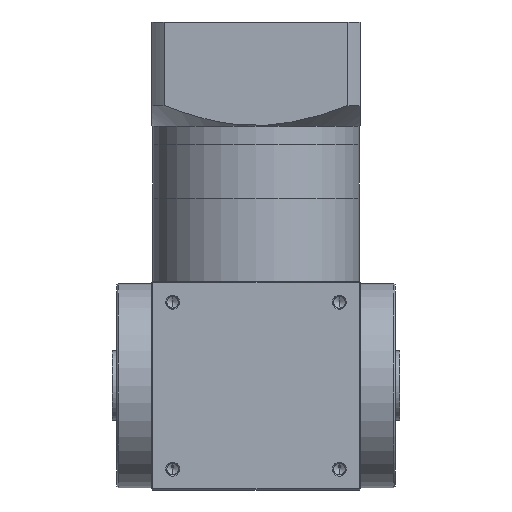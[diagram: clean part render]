
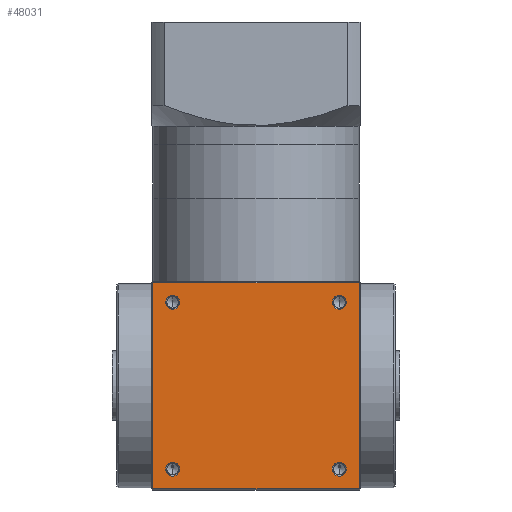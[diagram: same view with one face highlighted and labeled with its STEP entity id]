
A CAD part, front view. The second image highlights one B-rep face of the part: STEP entity #48031.
In plain terms, the highlighted planar face has unit normal (0, -1, 0).
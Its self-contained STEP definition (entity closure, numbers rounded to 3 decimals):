
#159 = EDGE_CURVE ( 'NONE', #20645, #26271, #31512, .T. ) ;
#412 = EDGE_CURVE ( 'NONE', #11219, #1930, #9985, .T. ) ;
#722 = EDGE_CURVE ( 'NONE', #47131, #40272, #19111, .T. ) ;
#1172 = EDGE_CURVE ( 'NONE', #38561, #21035, #33791, .T. ) ;
#1274 = ORIENTED_EDGE ( 'NONE', *, *, #37753, .F. ) ;
#1787 = AXIS2_PLACEMENT_3D ( 'NONE', #38542, #13164, #42939 ) ;
#1930 = VERTEX_POINT ( 'NONE', #42247 ) ;
#2222 = AXIS2_PLACEMENT_3D ( 'NONE', #11020, #11131, #11204 ) ;
#3590 = DIRECTION ( 'NONE',  ( 0., 0., -1. ) ) ;
#3829 = DIRECTION ( 'NONE',  ( 0., -1., 0. ) ) ;
#3910 = EDGE_CURVE ( 'NONE', #40272, #47131, #34076, .T. ) ;
#4079 = CARTESIAN_POINT ( 'NONE',  ( 36., -45., 9. ) ) ;
#5293 = CARTESIAN_POINT ( 'NONE',  ( 44.5, -45., 0.5 ) ) ;
#5625 = EDGE_CURVE ( 'NONE', #17137, #20645, #23661, .T. ) ;
#6397 = CIRCLE ( 'NONE', #54764, 3.025 ) ;
#6937 = DIRECTION ( 'NONE',  ( 0., 0., -1. ) ) ;
#7678 = CARTESIAN_POINT ( 'NONE',  ( 36., -45., 84.025 ) ) ;
#9094 = CARTESIAN_POINT ( 'NONE',  ( -45., -45., 0.5 ) ) ;
#9098 = ORIENTED_EDGE ( 'NONE', *, *, #159, .F. ) ;
#9985 = CIRCLE ( 'NONE', #31690, 3.025 ) ;
#10092 = DIRECTION ( 'NONE',  ( 0., 0., -1. ) ) ;
#11020 = CARTESIAN_POINT ( 'NONE',  ( 36., -45., 81. ) ) ;
#11094 = DIRECTION ( 'NONE',  ( 0., -1., 0. ) ) ;
#11131 = DIRECTION ( 'NONE',  ( 0., -1., 0. ) ) ;
#11204 = DIRECTION ( 'NONE',  ( 0., 0., -1. ) ) ;
#11219 = VERTEX_POINT ( 'NONE', #31250 ) ;
#11232 = DIRECTION ( 'NONE',  ( 0., -1., 0. ) ) ;
#12081 = ORIENTED_EDGE ( 'NONE', *, *, #20796, .F. ) ;
#12289 = CARTESIAN_POINT ( 'NONE',  ( -36., -45., 81. ) ) ;
#12422 = CARTESIAN_POINT ( 'NONE',  ( -36., -45., 9. ) ) ;
#13083 = AXIS2_PLACEMENT_3D ( 'NONE', #43446, #43070, #40570 ) ;
#13164 = DIRECTION ( 'NONE',  ( 0., -1., 0. ) ) ;
#13678 = CARTESIAN_POINT ( 'NONE',  ( -36., -45., 84.025 ) ) ;
#13939 = CARTESIAN_POINT ( 'NONE',  ( -36., -45., 77.975 ) ) ;
#14614 = VECTOR ( 'NONE', #21424, 1000. ) ;
#15888 = AXIS2_PLACEMENT_3D ( 'NONE', #32867, #41574, #16115 ) ;
#16115 = DIRECTION ( 'NONE',  ( 0., 0., 1. ) ) ;
#16515 = ORIENTED_EDGE ( 'NONE', *, *, #23662, .F. ) ;
#16692 = DIRECTION ( 'NONE',  ( 0., 0., -1. ) ) ;
#17137 = VERTEX_POINT ( 'NONE', #34700 ) ;
#17348 = DIRECTION ( 'NONE',  ( 0., 0., 1. ) ) ;
#17709 = CARTESIAN_POINT ( 'NONE',  ( -45., -45., 89.5 ) ) ;
#17774 = DIRECTION ( 'NONE',  ( 1., 0., 0. ) ) ;
#18114 = CARTESIAN_POINT ( 'NONE',  ( -36., -45., 5.975 ) ) ;
#19111 = CIRCLE ( 'NONE', #53627, 3.025 ) ;
#19977 = EDGE_LOOP ( 'NONE', ( #40289, #47814 ) ) ;
#20605 = CARTESIAN_POINT ( 'NONE',  ( 36., -45., 77.975 ) ) ;
#20645 = VERTEX_POINT ( 'NONE', #21785 ) ;
#20796 = EDGE_CURVE ( 'NONE', #1930, #11219, #45195, .T. ) ;
#21035 = VERTEX_POINT ( 'NONE', #20605 ) ;
#21424 = DIRECTION ( 'NONE',  ( 0., 0., -1. ) ) ;
#21785 = CARTESIAN_POINT ( 'NONE',  ( 44.5, -45., 89.5 ) ) ;
#22583 = EDGE_LOOP ( 'NONE', ( #27415, #9098, #52687, #1274 ) ) ;
#23124 = VECTOR ( 'NONE', #17774, 1000. ) ;
#23662 = EDGE_CURVE ( 'NONE', #26314, #50304, #6397, .T. ) ;
#23661 = LINE ( 'NONE', #17709, #23124 ) ;
#24175 = CARTESIAN_POINT ( 'NONE',  ( -36., -45., 9. ) ) ;
#25287 = CARTESIAN_POINT ( 'NONE',  ( -44.5, -45., 0.5 ) ) ;
#25377 = EDGE_CURVE ( 'NONE', #50304, #26314, #54534, .T. ) ;
#26271 = VERTEX_POINT ( 'NONE', #5293 ) ;
#26314 = VERTEX_POINT ( 'NONE', #18114 ) ;
#27326 = ORIENTED_EDGE ( 'NONE', *, *, #3910, .F. ) ;
#27415 = ORIENTED_EDGE ( 'NONE', *, *, #40707, .F. ) ;
#28195 = EDGE_LOOP ( 'NONE', ( #16515, #34754 ) ) ;
#28371 = DIRECTION ( 'NONE',  ( 0., 0., -1. ) ) ;
#30120 = AXIS2_PLACEMENT_3D ( 'NONE', #12422, #42176, #16692 ) ;
#30819 = ORIENTED_EDGE ( 'NONE', *, *, #412, .F. ) ;
#31250 = CARTESIAN_POINT ( 'NONE',  ( 36., -45., 12.025 ) ) ;
#31512 = LINE ( 'NONE', #46103, #14614 ) ;
#31690 = AXIS2_PLACEMENT_3D ( 'NONE', #35670, #11232, #10092 ) ;
#32162 = EDGE_LOOP ( 'NONE', ( #27326, #48648 ) ) ;
#32867 = CARTESIAN_POINT ( 'NONE',  ( -45., -45., 90. ) ) ;
#33791 = CIRCLE ( 'NONE', #2222, 3.025 ) ;
#34076 = CIRCLE ( 'NONE', #13083, 3.025 ) ;
#34700 = CARTESIAN_POINT ( 'NONE',  ( -44.5, -45., 89.5 ) ) ;
#34754 = ORIENTED_EDGE ( 'NONE', *, *, #25377, .F. ) ;
#35670 = CARTESIAN_POINT ( 'NONE',  ( 36., -45., 9. ) ) ;
#36630 = AXIS2_PLACEMENT_3D ( 'NONE', #4079, #3829, #3590 ) ;
#37753 = EDGE_CURVE ( 'NONE', #51589, #17137, #46322, .T. ) ;
#38474 = CARTESIAN_POINT ( 'NONE',  ( -44.5, -45., 90. ) ) ;
#38542 = CARTESIAN_POINT ( 'NONE',  ( 36., -45., 81. ) ) ;
#38561 = VERTEX_POINT ( 'NONE', #7678 ) ;
#38705 = DIRECTION ( 'NONE',  ( -1., 0., 0. ) ) ;
#40272 = VERTEX_POINT ( 'NONE', #13939 ) ;
#40289 = ORIENTED_EDGE ( 'NONE', *, *, #53253, .F. ) ;
#40570 = DIRECTION ( 'NONE',  ( 0., 0., -1. ) ) ;
#40707 = EDGE_CURVE ( 'NONE', #26271, #51589, #54886, .T. ) ;
#41574 = DIRECTION ( 'NONE',  ( 0., 1., 0. ) ) ;
#42176 = DIRECTION ( 'NONE',  ( 0., -1., 0. ) ) ;
#42247 = CARTESIAN_POINT ( 'NONE',  ( 36., -45., 5.975 ) ) ;
#42939 = DIRECTION ( 'NONE',  ( 0., 0., -1. ) ) ;
#43070 = DIRECTION ( 'NONE',  ( 0., -1., 0. ) ) ;
#43446 = CARTESIAN_POINT ( 'NONE',  ( -36., -45., 81. ) ) ;
#45195 = CIRCLE ( 'NONE', #36630, 3.025 ) ;
#46103 = CARTESIAN_POINT ( 'NONE',  ( 44.5, -45., 90. ) ) ;
#46322 = LINE ( 'NONE', #38474, #46859 ) ;
#46859 = VECTOR ( 'NONE', #17348, 1000. ) ;
#47131 = VERTEX_POINT ( 'NONE', #13678 ) ;
#47814 = ORIENTED_EDGE ( 'NONE', *, *, #1172, .F. ) ;
#48031 = ADVANCED_FACE ( 'NONE', ( #50350, #51587, #49648, #50213, #49545 ), #54305, .F. ) ;
#48648 = ORIENTED_EDGE ( 'NONE', *, *, #722, .F. ) ;
#49496 = EDGE_LOOP ( 'NONE', ( #12081, #30819 ) ) ;
#49545 = FACE_OUTER_BOUND ( 'NONE', #22583, .T. ) ;
#49648 = FACE_BOUND ( 'NONE', #49496, .T. ) ;
#50213 = FACE_BOUND ( 'NONE', #28195, .T. ) ;
#50304 = VERTEX_POINT ( 'NONE', #50787 ) ;
#50350 = FACE_BOUND ( 'NONE', #19977, .T. ) ;
#50787 = CARTESIAN_POINT ( 'NONE',  ( -36., -45., 12.025 ) ) ;
#51587 = FACE_BOUND ( 'NONE', #32162, .T. ) ;
#51589 = VERTEX_POINT ( 'NONE', #25287 ) ;
#52308 = CIRCLE ( 'NONE', #1787, 3.025 ) ;
#52687 = ORIENTED_EDGE ( 'NONE', *, *, #5625, .F. ) ;
#53253 = EDGE_CURVE ( 'NONE', #21035, #38561, #52308, .T. ) ;
#53627 = AXIS2_PLACEMENT_3D ( 'NONE', #12289, #11094, #6937 ) ;
#53960 = DIRECTION ( 'NONE',  ( 0., -1., 0. ) ) ;
#54257 = VECTOR ( 'NONE', #38705, 1000. ) ;
#54305 = PLANE ( 'NONE',  #15888 ) ;
#54534 = CIRCLE ( 'NONE', #30120, 3.025 ) ;
#54764 = AXIS2_PLACEMENT_3D ( 'NONE', #24175, #53960, #28371 ) ;
#54886 = LINE ( 'NONE', #9094, #54257 ) ;
